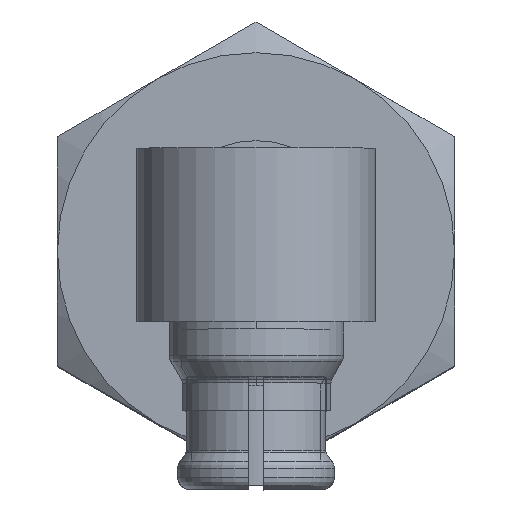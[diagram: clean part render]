
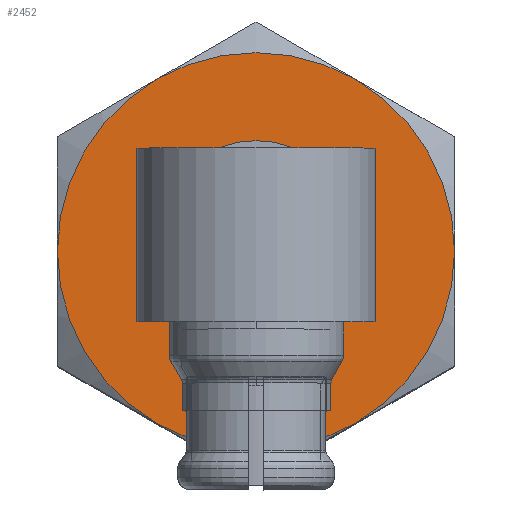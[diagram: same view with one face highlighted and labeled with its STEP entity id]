
A CAD part, top view. The second image highlights one B-rep face of the part: STEP entity #2452.
In plain terms, the highlighted planar face has unit normal (0, 0, 1).
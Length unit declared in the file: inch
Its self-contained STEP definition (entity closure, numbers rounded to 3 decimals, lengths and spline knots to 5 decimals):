
#4 = DIRECTION ( 'NONE',  ( -1., 0., 0. ) ) ;
#49 = DIRECTION ( 'NONE',  ( 0., 0., -1. ) ) ;
#70 = AXIS2_PLACEMENT_3D ( 'NONE', #5595, #5645, #6180 ) ;
#162 = DIRECTION ( 'NONE',  ( 0., 0., -1. ) ) ;
#574 = DIRECTION ( 'NONE',  ( -1., 0., 0. ) ) ;
#955 = DIRECTION ( 'NONE',  ( 0., 0., -1. ) ) ;
#995 = DIRECTION ( 'NONE',  ( 0., 0., -1. ) ) ;
#1010 = ORIENTED_EDGE ( 'NONE', *, *, #1318, .F. ) ;
#1106 = VERTEX_POINT ( 'NONE', #5640 ) ;
#1252 = DIRECTION ( 'NONE',  ( -1., 0., 0. ) ) ;
#1263 = ORIENTED_EDGE ( 'NONE', *, *, #4902, .F. ) ;
#1275 = DIRECTION ( 'NONE',  ( -1., 0., 0. ) ) ;
#1290 = DIRECTION ( 'NONE',  ( -1., 0., 0. ) ) ;
#1318 = EDGE_CURVE ( 'NONE', #1106, #4407, #4961, .T. ) ;
#1321 = EDGE_CURVE ( 'NONE', #7331, #1792, #4760, .T. ) ;
#1503 = CIRCLE ( 'NONE', #7011, 0.08415 ) ;
#1598 = EDGE_LOOP ( 'NONE', ( #4253, #4764 ) ) ;
#1763 = AXIS2_PLACEMENT_3D ( 'NONE', #3643, #162, #1275 ) ;
#1781 = CARTESIAN_POINT ( 'NONE',  ( -0.08415, 0., -5.492 ) ) ;
#1792 = VERTEX_POINT ( 'NONE', #4388 ) ;
#1797 = CARTESIAN_POINT ( 'NONE',  ( 0., 0., -5.492 ) ) ;
#1885 = FACE_BOUND ( 'NONE', #1598, .T. ) ;
#2236 = EDGE_CURVE ( 'NONE', #6758, #7112, #4886, .T. ) ;
#2312 = PLANE ( 'NONE',  #5521 ) ;
#2452 = ADVANCED_FACE ( 'NONE', ( #1885, #3850 ), #2312, .F. ) ;
#2603 = DIRECTION ( 'NONE',  ( 0., 0., -1. ) ) ;
#2660 = CIRCLE ( 'NONE', #1763, 0.156 ) ;
#2776 = DIRECTION ( 'NONE',  ( 0., 0., -1. ) ) ;
#2887 = AXIS2_PLACEMENT_3D ( 'NONE', #7285, #995, #4438 ) ;
#2922 = CARTESIAN_POINT ( 'NONE',  ( 0., 0., -5.492 ) ) ;
#3000 = ORIENTED_EDGE ( 'NONE', *, *, #3434, .F. ) ;
#3046 = CARTESIAN_POINT ( 'NONE',  ( -0.078, -0.1351, -5.492 ) ) ;
#3054 = CARTESIAN_POINT ( 'NONE',  ( -0.156, 0., -5.492 ) ) ;
#3102 = VERTEX_POINT ( 'NONE', #7137 ) ;
#3112 = EDGE_CURVE ( 'NONE', #4407, #3269, #2660, .T. ) ;
#3269 = VERTEX_POINT ( 'NONE', #3046 ) ;
#3307 = CARTESIAN_POINT ( 'NONE',  ( 0.078, -0.1351, -5.492 ) ) ;
#3322 = AXIS2_PLACEMENT_3D ( 'NONE', #2922, #6464, #1290 ) ;
#3424 = CARTESIAN_POINT ( 'NONE',  ( 0., 0.08415, -5.492 ) ) ;
#3434 = EDGE_CURVE ( 'NONE', #3102, #1106, #6745, .T. ) ;
#3643 = CARTESIAN_POINT ( 'NONE',  ( 0., 0., -5.492 ) ) ;
#3712 = EDGE_CURVE ( 'NONE', #1792, #3102, #5652, .T. ) ;
#3850 = FACE_OUTER_BOUND ( 'NONE', #4170, .T. ) ;
#3880 = CARTESIAN_POINT ( 'NONE',  ( 0., 0., -5.492 ) ) ;
#4123 = CIRCLE ( 'NONE', #3322, 0.156 ) ;
#4170 = EDGE_LOOP ( 'NONE', ( #6390, #1263, #5708, #1010, #3000, #7307 ) ) ;
#4253 = ORIENTED_EDGE ( 'NONE', *, *, #7420, .T. ) ;
#4388 = CARTESIAN_POINT ( 'NONE',  ( -0.078, 0.1351, -5.492 ) ) ;
#4403 = DIRECTION ( 'NONE',  ( -1., 0., 0. ) ) ;
#4407 = VERTEX_POINT ( 'NONE', #3307 ) ;
#4438 = DIRECTION ( 'NONE',  ( -1., 0., 0. ) ) ;
#4760 = CIRCLE ( 'NONE', #7041, 0.156 ) ;
#4764 = ORIENTED_EDGE ( 'NONE', *, *, #2236, .T. ) ;
#4886 = CIRCLE ( 'NONE', #6427, 0.08415 ) ;
#4902 = EDGE_CURVE ( 'NONE', #3269, #7331, #4123, .T. ) ;
#4961 = CIRCLE ( 'NONE', #6819, 0.156 ) ;
#4965 = CARTESIAN_POINT ( 'NONE',  ( 0.08415, 0., -5.492 ) ) ;
#5521 = AXIS2_PLACEMENT_3D ( 'NONE', #3424, #2776, #4 ) ;
#5595 = CARTESIAN_POINT ( 'NONE',  ( 0., 0., -5.492 ) ) ;
#5640 = CARTESIAN_POINT ( 'NONE',  ( 0.156, 0., -5.492 ) ) ;
#5645 = DIRECTION ( 'NONE',  ( 0., 0., -1. ) ) ;
#5652 = CIRCLE ( 'NONE', #70, 0.156 ) ;
#5708 = ORIENTED_EDGE ( 'NONE', *, *, #3112, .F. ) ;
#6095 = CARTESIAN_POINT ( 'NONE',  ( 0., 0., -5.492 ) ) ;
#6116 = DIRECTION ( 'NONE',  ( -1., 0., 0. ) ) ;
#6180 = DIRECTION ( 'NONE',  ( -1., 0., 0. ) ) ;
#6374 = CARTESIAN_POINT ( 'NONE',  ( 0., 0., -5.492 ) ) ;
#6390 = ORIENTED_EDGE ( 'NONE', *, *, #1321, .F. ) ;
#6408 = DIRECTION ( 'NONE',  ( 0., 0., -1. ) ) ;
#6427 = AXIS2_PLACEMENT_3D ( 'NONE', #6095, #2603, #6116 ) ;
#6464 = DIRECTION ( 'NONE',  ( 0., 0., -1. ) ) ;
#6745 = CIRCLE ( 'NONE', #2887, 0.156 ) ;
#6758 = VERTEX_POINT ( 'NONE', #4965 ) ;
#6819 = AXIS2_PLACEMENT_3D ( 'NONE', #6374, #49, #574 ) ;
#7011 = AXIS2_PLACEMENT_3D ( 'NONE', #3880, #955, #4403 ) ;
#7041 = AXIS2_PLACEMENT_3D ( 'NONE', #1797, #6408, #1252 ) ;
#7112 = VERTEX_POINT ( 'NONE', #1781 ) ;
#7137 = CARTESIAN_POINT ( 'NONE',  ( 0.078, 0.1351, -5.492 ) ) ;
#7285 = CARTESIAN_POINT ( 'NONE',  ( 0., 0., -5.492 ) ) ;
#7307 = ORIENTED_EDGE ( 'NONE', *, *, #3712, .F. ) ;
#7331 = VERTEX_POINT ( 'NONE', #3054 ) ;
#7420 = EDGE_CURVE ( 'NONE', #7112, #6758, #1503, .T. ) ;
